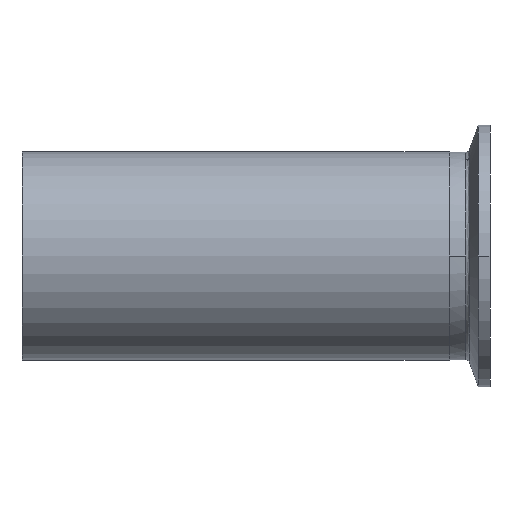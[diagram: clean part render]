
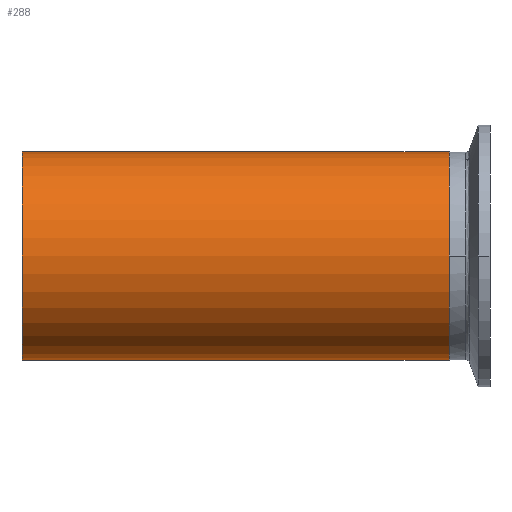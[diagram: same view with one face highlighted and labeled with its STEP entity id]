
A CAD part, front view. The second image highlights one B-rep face of the part: STEP entity #288.
In plain terms, the highlighted cylindrical face has radius 25.4 mm (diameter 50.8 mm), a partial arc.
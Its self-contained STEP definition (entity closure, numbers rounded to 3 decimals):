
#6 = LINE ( 'NONE', #1085, #112 ) ;
#29 = EDGE_CURVE ( 'NONE', #1699, #824, #324, .T. ) ;
#38 = ORIENTED_EDGE ( 'NONE', *, *, #29, .T. ) ;
#112 = VECTOR ( 'NONE', #1133, 1000. ) ;
#119 = ORIENTED_EDGE ( 'NONE', *, *, #951, .T. ) ;
#126 = ORIENTED_EDGE ( 'NONE', *, *, #162, .F. ) ;
#158 = CARTESIAN_POINT ( 'NONE',  ( 31.3, 0., 0. ) ) ;
#162 = EDGE_CURVE ( 'NONE', #1699, #1657, #230, .T. ) ;
#163 = DIRECTION ( 'NONE',  ( -1., 0., 0. ) ) ;
#166 = CARTESIAN_POINT ( 'NONE',  ( 31.3, 0., 25.4 ) ) ;
#175 = VERTEX_POINT ( 'NONE', #946 ) ;
#230 = LINE ( 'NONE', #1670, #1040 ) ;
#261 = DIRECTION ( 'NONE',  ( -1., 0., 0. ) ) ;
#288 = ADVANCED_FACE ( 'NONE', ( #1277 ), #1233, .T. ) ;
#294 = CARTESIAN_POINT ( 'NONE',  ( -73., 0., -25.4 ) ) ;
#301 = CIRCLE ( 'NONE', #763, 25.4 ) ;
#306 = CARTESIAN_POINT ( 'NONE',  ( 103.142, 0., 25.4 ) ) ;
#324 = CIRCLE ( 'NONE', #1400, 25.4 ) ;
#351 = VERTEX_POINT ( 'NONE', #1192 ) ;
#355 = DIRECTION ( 'NONE',  ( -1., 0., 0. ) ) ;
#378 = VECTOR ( 'NONE', #261, 1000. ) ;
#388 = DIRECTION ( 'NONE',  ( 0., 0., 1. ) ) ;
#415 = DIRECTION ( 'NONE',  ( -1., 0., 0. ) ) ;
#437 = ORIENTED_EDGE ( 'NONE', *, *, #1354, .T. ) ;
#459 = EDGE_CURVE ( 'NONE', #824, #175, #1063, .T. ) ;
#578 = CARTESIAN_POINT ( 'NONE',  ( 103.142, 0., 25.4 ) ) ;
#583 = CARTESIAN_POINT ( 'NONE',  ( 31.3, 0., -25.4 ) ) ;
#732 = EDGE_LOOP ( 'NONE', ( #126, #38, #1092, #437, #119, #1517 ) ) ;
#745 = EDGE_CURVE ( 'NONE', #1657, #1228, #6, .T. ) ;
#763 = AXIS2_PLACEMENT_3D ( 'NONE', #1069, #1078, #1086 ) ;
#824 = VERTEX_POINT ( 'NONE', #166 ) ;
#871 = CARTESIAN_POINT ( 'NONE',  ( 103.142, 0., 0. ) ) ;
#887 = DIRECTION ( 'NONE',  ( -1., 0., 0. ) ) ;
#946 = CARTESIAN_POINT ( 'NONE',  ( 0., 0., 25.4 ) ) ;
#951 = EDGE_CURVE ( 'NONE', #351, #1228, #301, .T. ) ;
#1040 = VECTOR ( 'NONE', #355, 1000. ) ;
#1063 = LINE ( 'NONE', #578, #1764 ) ;
#1069 = CARTESIAN_POINT ( 'NONE',  ( -73., 0., 0. ) ) ;
#1078 = DIRECTION ( 'NONE',  ( 1., 0., 0. ) ) ;
#1085 = CARTESIAN_POINT ( 'NONE',  ( 103.142, 0., -25.4 ) ) ;
#1086 = DIRECTION ( 'NONE',  ( 0., 0., 1. ) ) ;
#1092 = ORIENTED_EDGE ( 'NONE', *, *, #459, .T. ) ;
#1133 = DIRECTION ( 'NONE',  ( -1., 0., 0. ) ) ;
#1192 = CARTESIAN_POINT ( 'NONE',  ( -73., 0., 25.4 ) ) ;
#1228 = VERTEX_POINT ( 'NONE', #294 ) ;
#1233 = CYLINDRICAL_SURFACE ( 'NONE', #1247, 25.4 ) ;
#1247 = AXIS2_PLACEMENT_3D ( 'NONE', #871, #887, #388 ) ;
#1277 = FACE_OUTER_BOUND ( 'NONE', #732, .T. ) ;
#1293 = CARTESIAN_POINT ( 'NONE',  ( 0., 0., -25.4 ) ) ;
#1354 = EDGE_CURVE ( 'NONE', #175, #351, #1567, .T. ) ;
#1400 = AXIS2_PLACEMENT_3D ( 'NONE', #158, #163, #1739 ) ;
#1517 = ORIENTED_EDGE ( 'NONE', *, *, #745, .F. ) ;
#1567 = LINE ( 'NONE', #306, #378 ) ;
#1657 = VERTEX_POINT ( 'NONE', #1293 ) ;
#1670 = CARTESIAN_POINT ( 'NONE',  ( 103.142, 0., -25.4 ) ) ;
#1699 = VERTEX_POINT ( 'NONE', #583 ) ;
#1739 = DIRECTION ( 'NONE',  ( 0., 0., 1. ) ) ;
#1764 = VECTOR ( 'NONE', #415, 1000. ) ;
